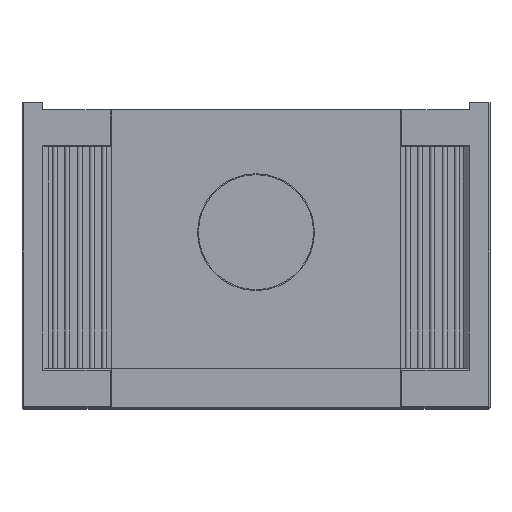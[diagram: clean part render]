
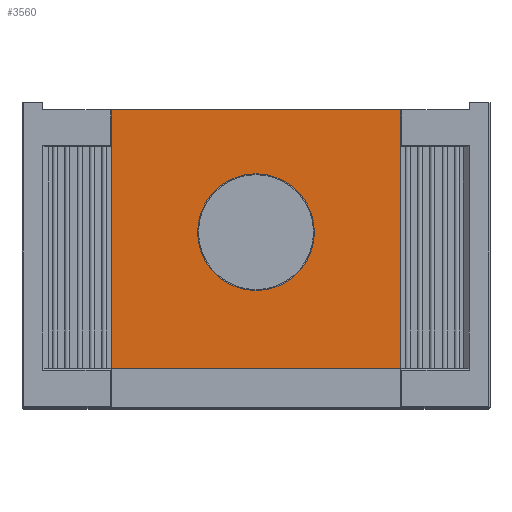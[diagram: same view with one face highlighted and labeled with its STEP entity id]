
A CAD part, top view. The second image highlights one B-rep face of the part: STEP entity #3560.
In plain terms, the highlighted planar face has unit normal (0, 0, 1).
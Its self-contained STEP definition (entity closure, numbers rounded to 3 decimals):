
#3560 = ADVANCED_FACE( '', ( #7786, #7787 ), #7788, .T. );
#7786 = FACE_OUTER_BOUND( '', #12965, .T. );
#7787 = FACE_BOUND( '', #12966, .T. );
#7788 = PLANE( '', #12967 );
#12965 = EDGE_LOOP( '', ( #24684, #24685, #24686, #24687 ) );
#12966 = EDGE_LOOP( '', ( #24688 ) );
#12967 = AXIS2_PLACEMENT_3D( '', #24689, #24690, #24691 );
#24684 = ORIENTED_EDGE( '', *, *, #36374, .F. );
#24685 = ORIENTED_EDGE( '', *, *, #33163, .F. );
#24686 = ORIENTED_EDGE( '', *, *, #34293, .T. );
#24687 = ORIENTED_EDGE( '', *, *, #35986, .T. );
#24688 = ORIENTED_EDGE( '', *, *, #36375, .T. );
#24689 = CARTESIAN_POINT( '', ( -293., -15., 1752. ) );
#24690 = DIRECTION( '', ( 0., 0., 1. ) );
#24691 = DIRECTION( '', ( 1., 0., 0. ) );
#33163 = EDGE_CURVE( '', #39763, #39759, #39765, .T. );
#34293 = EDGE_CURVE( '', #39763, #41655, #41657, .T. );
#35986 = EDGE_CURVE( '', #41655, #44056, #44059, .T. );
#36374 = EDGE_CURVE( '', #39759, #44056, #44556, .T. );
#36375 = EDGE_CURVE( '', #44557, #44557, #44558, .T. );
#39759 = VERTEX_POINT( '', #49796 );
#39763 = VERTEX_POINT( '', #49802 );
#39765 = LINE( '', #49805, #49806 );
#41655 = VERTEX_POINT( '', #54162 );
#41657 = LINE( '', #54165, #54166 );
#44056 = VERTEX_POINT( '', #59388 );
#44059 = LINE( '', #59392, #59393 );
#44556 = LINE( '', #60444, #60445 );
#44557 = VERTEX_POINT( '', #60446 );
#44558 = CIRCLE( '', #60447, 118.469 );
#49796 = CARTESIAN_POINT( '', ( 293., -15., 1752. ) );
#49802 = CARTESIAN_POINT( '', ( -293., -15., 1752. ) );
#49805 = CARTESIAN_POINT( '', ( -293., -15., 1752. ) );
#49806 = VECTOR( '', #64764, 1000. );
#54162 = CARTESIAN_POINT( '', ( -293., -539.683, 1752. ) );
#54165 = CARTESIAN_POINT( '', ( -293., -15., 1752. ) );
#54166 = VECTOR( '', #65630, 1000. );
#59388 = CARTESIAN_POINT( '', ( 293., -539.683, 1752. ) );
#59392 = CARTESIAN_POINT( '', ( -293., -539.683, 1752. ) );
#59393 = VECTOR( '', #66716, 1000. );
#60444 = CARTESIAN_POINT( '', ( 293., -15., 1752. ) );
#60445 = VECTOR( '', #66939, 1000. );
#60446 = CARTESIAN_POINT( '', ( 118.469, -263.1, 1752. ) );
#60447 = AXIS2_PLACEMENT_3D( '', #66940, #66941, #66942 );
#64764 = DIRECTION( '', ( 1., 0., 0. ) );
#65630 = DIRECTION( '', ( 0., -1., 0. ) );
#66716 = DIRECTION( '', ( 1., 0., 0. ) );
#66939 = DIRECTION( '', ( 0., -1., 0. ) );
#66940 = CARTESIAN_POINT( '', ( 0., -263.1, 1752. ) );
#66941 = DIRECTION( '', ( 0., 0., -1. ) );
#66942 = DIRECTION( '', ( 1., 0., 0. ) );
